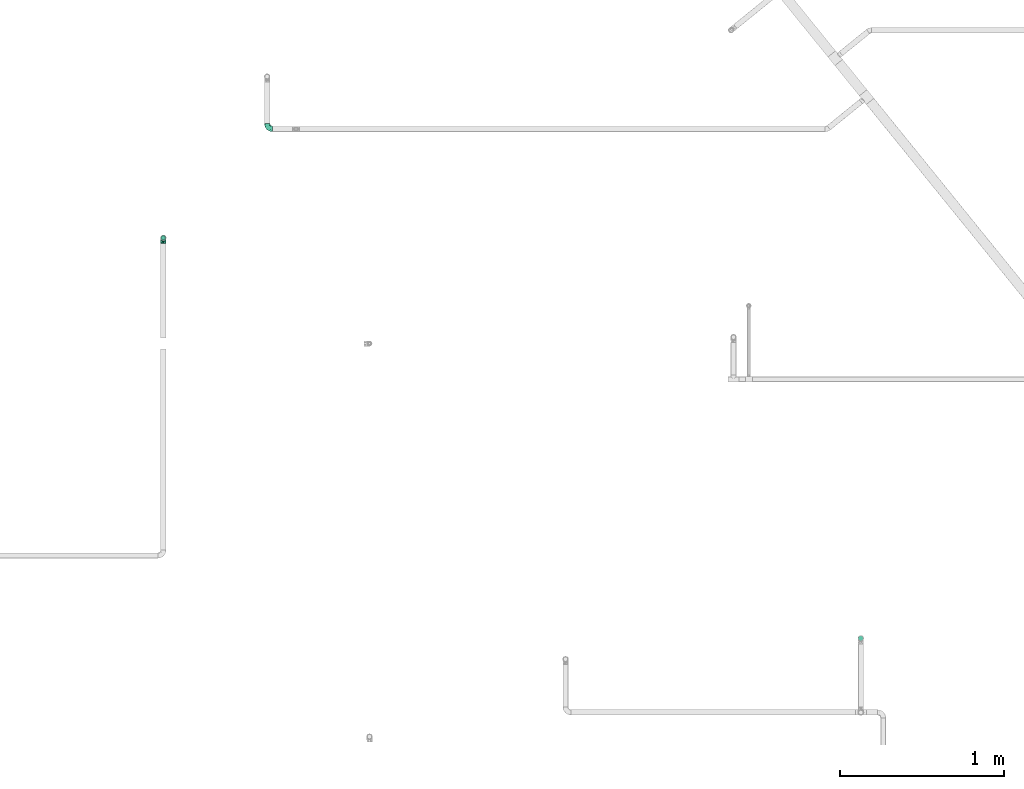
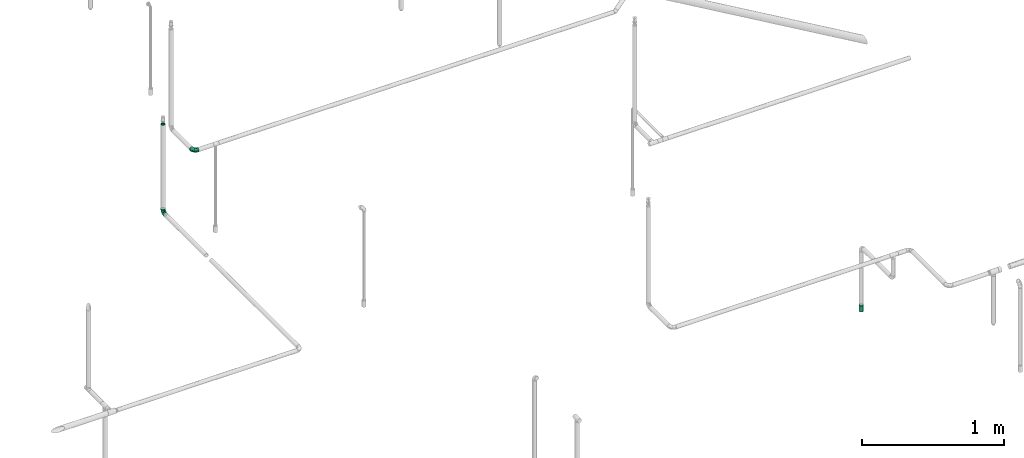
# One storey, part 61 of 94: 3 flow fittings, 1 flow terminal.
"""IFC2X3 building model written with IfcOpenShell, lengths in millimetres."""

from ifc_helpers import new_model, entity, si_unit, converted_unit, derived_unit, direction, frame, origin_with_axes, place, context, subcontext, project, spatial, open_shell, surface_model, source, transform, mapped, type_object, element, save


model = new_model("IFC2X3")

# Units and contexts
model_context = context("Model", 3, precision=0.01, world=frame((0.0, 4.29681676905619e-09, 0.0)), true_north=direction((4.01073788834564e-13, 1.0)))
plan_context = context("Plan", 3, precision=0.01, world=frame((0.0, 4.29681676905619e-09, 0.0)), true_north=direction((4.01073788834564e-13, 1.0)))
body_context = subcontext(model_context, "Body", "Model", "MODEL_VIEW")
ifc_project = project(units=[converted_unit("PLANEANGLEUNIT", "DEGREE", entity("IfcPositiveLengthMeasure", 0.0174532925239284), si_unit("PLANEANGLEUNIT", "RADIAN"), dimensions=[0, 0, 0, 0, 0, 0, 0]), si_unit("AREAUNIT", "SQUARE_METRE"), si_unit("LENGTHUNIT", "METRE", prefix="MILLI"), si_unit("MASSUNIT", "GRAM", prefix="KILO"), si_unit("POWERUNIT", "WATT"), si_unit("PRESSUREUNIT", "PASCAL", prefix="KILO"), si_unit("FORCEUNIT", "NEWTON", prefix="KILO"), si_unit("ELECTRICVOLTAGEUNIT", "VOLT"), si_unit("ELECTRICCURRENTUNIT", "AMPERE"), si_unit("THERMODYNAMICTEMPERATUREUNIT", "DEGREE_CELSIUS"), si_unit("TIMEUNIT", "SECOND"), si_unit("VOLUMEUNIT", "CUBIC_METRE"), derived_unit("LINEARVELOCITYUNIT", [(si_unit("LENGTHUNIT", "METRE"), 1), (si_unit("TIMEUNIT", "SECOND"), -1)]), derived_unit("VOLUMETRICFLOWRATEUNIT", [(si_unit("VOLUMEUNIT", "CUBIC_METRE"), 1), (si_unit("TIMEUNIT", "SECOND"), -1)]), derived_unit("THERMALTRANSMITTANCEUNIT", [(si_unit("POWERUNIT", "WATT"), 1), (si_unit("THERMODYNAMICTEMPERATUREUNIT", "KELVIN"), -1), (si_unit("AREAUNIT", "SQUARE_METRE"), -1)]), derived_unit("SOUNDPRESSUREUNIT", [(si_unit("PRESSUREUNIT", "PASCAL"), 1)])], contexts=[model_context, plan_context])

# Site, building, storey
site_placement = place(None, frame((0.0, -4.29681676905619e-09, 0.0), z_axis=(0.0, 0.0, 1.0), x_axis=(1.0, 0.0, 0.0)))
site = spatial("IfcSite", under=ifc_project, at=site_placement, CompositionType="ELEMENT")
building_placement = place(site_placement, frame((0.0, 4.29681676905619e-09, 0.0), z_axis=(0.0, 0.0, 1.0), x_axis=(1.0, 0.0, 0.0)))
building = spatial("IfcBuilding", under=site, at=building_placement, Name="mc-building", CompositionType="ELEMENT")
storey_placement = place(building_placement, frame((0.0, 0.0, 210900.0), z_axis=(0.0, 0.0, 1.0), x_axis=(1.0, 0.0, 0.0)))
storey = spatial("IfcBuildingStorey", under=building, at=storey_placement, Name="Nivå F", CompositionType="ELEMENT", Elevation=210900.0)

# Flow fittings
pipe_fitting_type_1 = type_object("IfcPipeFittingType", Name="magi_pipe_fe_reducer_centric_short_NOR", PredefinedType="TRANSITION")
shared_shape_1 = source(origin_with_axes(), body_context, "Body", "SurfaceModel", [
    surface_model("IfcShellBasedSurfaceModel", [(14.4, 5.35, -9.26647), (14.4, 0.0, -10.7), (14.4, 2.76936, -10.33541), (14.4, 10.33541, -2.76936), (14.4, 7.56604, -7.56604), (14.4, -10.33541, -2.76936), (14.4, 9.26647, -5.35), (14.4, 0.0, 10.7), (14.4, -5.35, -9.26647), (14.4, -2.76936, -10.33541), (14.4, -7.56604, -7.56604), (14.4, -9.26647, -5.35), (14.4, 10.7, 0.0), (14.4, 10.33541, 2.76936), (14.4, 9.26647, 5.35), (14.4, 7.56604, 7.56604), (14.4, 2.76936, 10.33541), (14.4, 5.35, 9.26647), (14.4, -10.33541, 2.76936), (14.4, -7.56604, 7.56604), (14.4, -9.26647, 5.35), (14.4, -10.7, 0.0), (14.4, -2.76936, 10.33541), (14.4, -5.35, 9.26647), (12.4, 2.76936, 10.33541), (12.4, -10.33541, -2.76936), (12.4, 0.0, 10.7), (12.4, 5.35, 9.26647), (12.4, 7.56604, 7.56604), (12.4, 9.26647, 5.35), (12.4, 10.33541, 2.76936), (12.4, -10.33541, 2.76936), (12.4, -2.76936, 10.33541), (12.4, -7.56604, 7.56604), (12.4, -5.35, 9.26647), (12.4, -9.26647, 5.35), (12.4, -10.7, 0.0), (12.4, 10.33541, -2.76936), (12.4, 5.35, -9.26647), (12.4, 9.26647, -5.35), (12.4, 7.56604, -7.56604), (12.4, 2.76936, -10.33541), (12.4, -9.26647, -5.35), (12.4, -5.35, -9.26647), (12.4, -7.56604, -7.56604), (12.4, 0.0, -10.7), (12.4, -2.76936, -10.33541), (12.4, 10.7, 0.0), (-2.0, 11.9501, 11.9501), (-2.0, 0.0, 16.9), (-2.0, 4.37404, 16.32415), (-2.0, 8.45, 14.63583), (-2.0, 14.63583, 8.45), (-2.0, 16.32415, 4.37404), (-2.0, -16.32415, 4.37404), (-2.0, -8.45, 14.63583), (-2.0, -14.63583, 8.45), (-2.0, -11.9501, 11.9501), (-2.0, -4.37404, 16.32415), (-2.0, -16.32415, -4.37404), (-2.0, -16.9, 0.0), (-2.0, -8.45, -14.63583), (-2.0, 16.32415, -4.37404), (-2.0, 11.9501, -11.9501), (-2.0, 14.63583, -8.45), (-2.0, 8.45, -14.63583), (-2.0, 4.37404, -16.32415), (-2.0, 0.0, -16.9), (-2.0, -11.9501, -11.9501), (-2.0, -14.63583, -8.45), (-2.0, -4.37404, -16.32415), (-2.0, 16.9, 0.0), (0.0, 4.37404, -16.32415), (0.0, 8.45, -14.63583), (0.0, 11.9501, -11.9501), (0.0, 0.0, -16.9), (0.0, 16.32415, -4.37404), (0.0, 16.32415, 4.37404), (0.0, 14.63583, -8.45), (0.0, -8.45, -14.63583), (0.0, -4.37404, -16.32415), (0.0, -11.9501, -11.9501), (0.0, -16.32415, -4.37404), (0.0, -14.63583, -8.45), (0.0, -16.32415, 4.37404), (0.0, 16.9, 0.0), (0.0, 14.63583, 8.45), (0.0, 11.9501, 11.9501), (0.0, 4.37404, 16.32415), (0.0, 8.45, 14.63583), (0.0, 0.0, 16.9), (0.0, -14.63583, 8.45), (0.0, -16.9, 0.0), (0.0, -8.45, 14.63583), (0.0, -11.9501, 11.9501), (0.0, -4.37404, 16.32415), (12.4, 9.3625, -2.31662), (0.0, 14.42505, -5.97505), (0.0, 15.66253, -2.98753), (12.4, -6.6875, -6.94985), (0.0, -13.18758, -8.96258), (0.0, 2.98753, -15.66253), (12.4, 0.0, -9.26647), (12.4, 6.6875, -6.94985), (0.0, 8.96258, -13.18758), (12.4, -9.3625, -2.31662), (0.0, -15.66253, -2.98753), (0.0, -14.42505, -5.97505), (0.0, 5.97505, -14.42505), (0.0, -2.98753, -15.66253), (0.0, -8.96258, -13.18758), (0.0, 13.18758, -8.96258), (12.4, 8.025, -4.63324), (12.4, -2.675, -9.26647), (12.4, 2.675, -9.26647), (0.0, -5.97505, -14.42505), (12.4, -8.025, -4.63324), (12.4, -9.3625, 2.31662), (0.0, -14.42505, 5.97505), (0.0, -15.66253, 2.98753), (12.4, 6.6875, 6.94985), (0.0, 13.18758, 8.96258), (0.0, -2.98753, 15.66253), (12.4, 0.0, 9.26647), (12.4, -6.6875, 6.94985), (0.0, -8.96258, 13.18758), (12.4, 9.3625, 2.31662), (0.0, 15.66253, 2.98753), (0.0, 14.42505, 5.97505), (0.0, -5.97505, 14.42505), (0.0, 2.98753, 15.66253), (0.0, 8.96258, 13.18758), (0.0, -13.18758, 8.96258), (12.4, -8.025, 4.63324), (12.4, 2.675, 9.26647), (12.4, -2.675, 9.26647), (0.0, 5.97505, 14.42505), (12.4, 8.025, 4.63324)], [open_shell([[[0, 1, 2]], [[3, 0, 4]], [[5, 0, 3]], [[3, 4, 6]], [[7, 5, 3]], [[1, 8, 9]], [[1, 0, 8]], [[10, 5, 11]], [[5, 10, 8]], [[0, 5, 8]], [[3, 12, 13]], [[13, 14, 15]], [[13, 15, 16]], [[7, 3, 16]], [[16, 15, 17]], [[7, 18, 5]], [[18, 19, 20]], [[21, 5, 18]], [[19, 22, 23]], [[22, 19, 18]], [[7, 22, 18]], [[13, 16, 3]], [[24, 25, 26]], [[27, 25, 24]], [[28, 29, 30]], [[28, 25, 27]], [[31, 26, 25]], [[32, 33, 34]], [[33, 32, 31]], [[33, 31, 35]], [[32, 26, 31]], [[31, 25, 36]], [[30, 37, 28]], [[25, 28, 37]], [[38, 37, 39]], [[37, 38, 25]], [[38, 39, 40]], [[41, 25, 38]], [[42, 43, 44]], [[43, 42, 25]], [[43, 45, 46]], [[43, 25, 41]], [[41, 45, 43]], [[37, 30, 47]], [[25, 5, 36]], [[42, 11, 25]], [[8, 44, 43]], [[42, 44, 10]], [[9, 43, 46]], [[25, 11, 5]], [[5, 21, 36]], [[9, 8, 43]], [[10, 44, 8]], [[10, 11, 42]], [[1, 9, 46]], [[46, 45, 1]], [[41, 2, 45]], [[38, 0, 41]], [[6, 40, 39]], [[38, 40, 4]], [[3, 39, 37]], [[38, 4, 0]], [[0, 2, 41]], [[12, 3, 37]], [[6, 39, 3]], [[6, 4, 40]], [[47, 12, 37]], [[45, 2, 1]], [[30, 13, 47]], [[29, 14, 30]], [[17, 28, 27]], [[29, 28, 15]], [[16, 27, 24]], [[30, 14, 13]], [[13, 12, 47]], [[16, 17, 27]], [[15, 28, 17]], [[15, 14, 29]], [[7, 16, 24]], [[24, 26, 7]], [[32, 22, 26]], [[34, 23, 32]], [[20, 33, 35]], [[34, 33, 19]], [[18, 35, 31]], [[34, 19, 23]], [[23, 22, 32]], [[21, 18, 31]], [[20, 35, 18]], [[20, 19, 33]], [[36, 21, 31]], [[26, 22, 7]], [[48, 49, 50]], [[48, 50, 51]], [[48, 52, 53]], [[48, 53, 49]], [[49, 53, 54]], [[55, 56, 57]], [[55, 58, 49]], [[56, 55, 49]], [[49, 54, 56]], [[54, 59, 60]], [[54, 53, 61]], [[53, 62, 63]], [[63, 62, 64]], [[63, 65, 66]], [[61, 53, 63]], [[67, 63, 66]], [[59, 68, 69]], [[68, 59, 61]], [[61, 67, 70]], [[59, 54, 61]], [[63, 67, 61]], [[53, 71, 62]], [[72, 73, 74]], [[75, 72, 74]], [[74, 76, 77]], [[76, 74, 78]], [[74, 77, 79]], [[75, 79, 80]], [[75, 74, 79]], [[81, 82, 83]], [[82, 81, 79]], [[79, 84, 82]], [[77, 76, 85]], [[77, 86, 87]], [[77, 87, 88]], [[88, 84, 79]], [[88, 87, 89]], [[84, 88, 90]], [[90, 91, 84]], [[92, 82, 84]], [[91, 93, 94]], [[91, 90, 93]], [[93, 90, 95]], [[79, 77, 88]], [[59, 82, 60]], [[69, 83, 59]], [[79, 68, 61]], [[69, 68, 81]], [[80, 61, 70]], [[59, 83, 82]], [[82, 92, 60]], [[80, 79, 61]], [[81, 68, 79]], [[81, 83, 69]], [[75, 80, 70]], [[70, 67, 75]], [[66, 72, 67]], [[65, 73, 66]], [[78, 63, 64]], [[65, 63, 74]], [[76, 64, 62]], [[65, 74, 73]], [[73, 72, 66]], [[85, 76, 62]], [[78, 64, 76]], [[78, 74, 63]], [[71, 85, 62]], [[67, 72, 75]], [[53, 77, 71]], [[52, 86, 53]], [[89, 48, 51]], [[52, 48, 87]], [[88, 51, 50]], [[53, 86, 77]], [[77, 85, 71]], [[88, 89, 51]], [[87, 48, 89]], [[87, 86, 52]], [[90, 88, 50]], [[50, 49, 90]], [[58, 95, 49]], [[55, 93, 58]], [[91, 57, 56]], [[55, 57, 94]], [[84, 56, 54]], [[55, 94, 93]], [[93, 95, 58]], [[92, 84, 54]], [[91, 56, 84]], [[91, 94, 57]], [[60, 92, 54]], [[49, 95, 90]], [[27, 34, 47]], [[47, 34, 43]], [[43, 38, 47]], [[43, 34, 36]], [[90, 87, 94]], [[92, 94, 87]], [[87, 74, 92]], [[75, 92, 74]], [[81, 92, 75]], [[74, 87, 85]], [[96, 97, 98]], [[81, 99, 100]], [[101, 102, 75]], [[98, 85, 47]], [[74, 103, 104]], [[104, 103, 38]], [[105, 106, 107]], [[38, 108, 104]], [[102, 109, 75]], [[110, 99, 81]], [[47, 96, 98]], [[103, 111, 112]], [[109, 102, 113]], [[36, 92, 106]], [[102, 101, 114]], [[110, 115, 43]], [[96, 112, 97]], [[107, 116, 105]], [[36, 106, 105]], [[113, 115, 109]], [[43, 115, 113]], [[116, 107, 100]], [[108, 38, 114]], [[111, 103, 74]], [[111, 97, 112]], [[99, 110, 43]], [[116, 100, 99]], [[101, 108, 114]], [[117, 118, 119]], [[87, 120, 121]], [[122, 123, 90]], [[119, 92, 36]], [[94, 124, 125]], [[125, 124, 34]], [[126, 127, 128]], [[34, 129, 125]], [[123, 130, 90]], [[131, 120, 87]], [[36, 117, 119]], [[124, 132, 133]], [[130, 123, 134]], [[47, 85, 127]], [[123, 122, 135]], [[131, 136, 27]], [[117, 133, 118]], [[128, 137, 126]], [[47, 127, 126]], [[134, 136, 130]], [[27, 136, 134]], [[137, 128, 121]], [[129, 34, 135]], [[132, 124, 94]], [[132, 118, 133]], [[120, 131, 27]], [[137, 121, 120]], [[122, 129, 135]]])]),
])
flow_fitting_placement = place(storey_placement, frame((723741.0277, 439846.03424, 4357.64799999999), z_axis=(-1.0, 0.0, 0.0), x_axis=(0.0, 0.0, 1.0)))
element("IfcFlowFitting", 1, at=flow_fitting_placement, inside=storey, type_object=pipe_fitting_type_1, Name="magi_pipe_fe_reducer_centric_short_NOR", context=body_context, shape_type="MappedRepresentation", body=[
    mapped(shared_shape_1, transform((0.0, 0.0, 0.0), scale=1.0)),
])
pipe_fitting_type_2 = type_object("IfcPipeFittingType", Name="magi_pipe_fe_elbow_short_001", PredefinedType="BEND")
shared_shape_2 = source(origin_with_axes(), body_context, "Body", "SurfaceModel", [
    surface_model("IfcShellBasedSurfaceModel", [(-33.8, 8.45, -14.63583), (-33.8, 4.37404, -16.32415), (-33.8, 11.9501, -11.9501), (-33.8, -11.9501, -11.9501), (-33.8, -14.63583, -8.45), (-33.8, -8.45, -14.63583), (-33.8, 0.0, -16.9), (-33.8, -4.37404, -16.32415), (-33.8, -4.37404, 16.32415), (-33.8, 0.0, 16.9), (-33.8, -8.45, 14.63583), (-33.8, 16.32415, -4.37404), (-33.8, 14.63583, -8.45), (-33.8, -16.32415, -4.37404), (-33.8, -16.9, 0.0), (-33.8, -16.32415, 4.37404), (-33.8, 11.9501, 11.9501), (-33.8, 14.63583, 8.45), (-33.8, 16.32415, 4.37404), (-33.8, 4.37404, 16.32415), (-33.8, 8.45, 14.63583), (-33.8, -14.63583, 8.45), (-33.8, -11.9501, 11.9501), (-33.8, 16.9, 0.0), (-11.9501, 33.8, -11.9501), (0.0, 33.8, -16.9), (-4.37404, 33.8, -16.32415), (-8.45, 33.8, -14.63583), (-14.63583, 33.8, -8.45), (-16.32415, 33.8, -4.37404), (14.63583, 33.8, -8.45), (8.45, 33.8, 14.63583), (16.32415, 33.8, -4.37404), (8.45, 33.8, -14.63583), (11.9501, 33.8, -11.9501), (4.37404, 33.8, -16.32415), (16.32415, 33.8, 4.37404), (16.9, 33.8, 0.0), (-11.9501, 33.8, 11.9501), (-16.32415, 33.8, 4.37404), (-14.63583, 33.8, 8.45), (-8.45, 33.8, 14.63583), (-4.37404, 33.8, 16.32415), (11.9501, 33.8, 11.9501), (14.63583, 33.8, 8.45), (0.0, 33.8, 16.9), (4.37404, 33.8, 16.32415), (-16.9, 33.8, 0.0), (-24.79389, -13.12945, 9.48721), (-22.19287, -9.75018, 12.59315), (-24.09897, -14.97035, 0.0), (-14.93934, -10.76256, 8.5297), (-22.46095, -14.75051, 5.27077), (14.75051, 22.46094, 5.27077), (11.9251, 13.23888, 4.33236), (13.04069, 14.39795, 0.0), (7.71387, 13.68847, 11.55891), (9.75018, 22.19287, 12.59315), (4.10169, 13.0571, 14.04018), (-24.84007, -6.39063, 15.2048), (-25.81779, -2.23879, 16.61097), (-23.66549, 2.59054, 16.87119), (-26.50418, 14.06512, 11.08152), (-24.21253, 17.66365, 7.72657), (-29.58514, 15.86957, 7.00283), (-6.17382, -7.5455, 0.0), (-13.23888, -11.9251, 4.33236), (-14.39795, -13.04069, 0.0), (-17.81434, 18.87373, 11.97104), (-6.30846, 29.15138, 15.82987), (-2.31622, 25.28002, 16.85849), (-29.23923, 10.23435, 13.77053), (-1.45439, -2.85688, 7.61475), (-0.28326, 0.34872, 10.09509), (-5.74484, -4.04709, 10.4122), (-4.41137, 11.31918, 16.59407), (-8.39727, 3.10034, 15.7812), (-1.72649, 9.1306, 15.53089), (-17.39909, 24.75344, 7.64977), (-26.19233, 20.0512, 0.0), (-28.14518, 17.29657, 4.25857), (-26.05147, 6.6281, 15.96447), (-5.87354, 16.61944, 16.86968), (-12.51807, 12.51807, 16.48937), (-10.06312, 7.38516, 16.81295), (-3.01882, 3.01882, 13.81718), (-13.0571, -4.10169, 14.04018), (-16.82553, -0.15166, 16.38038), (10.76256, 14.93934, 8.5297), (13.12945, 24.79389, 9.48721), (6.39063, 24.84007, 15.2048), (2.23879, 25.81779, 16.61097), (-13.68847, -7.71387, 11.55891), (14.97035, 24.09897, 0.0), (-7.30894, 22.89991, 16.09489), (-10.67958, 26.17414, 14.008), (-12.78295, 18.26924, 15.06066), (-13.88562, 22.45231, 12.93244), (-18.04944, 15.16501, 14.04434), (-23.11658, 20.08178, 4.02986), (-21.84989, 21.84989, 0.0), (-18.55817, 25.48277, 3.93065), (-13.95142, 26.94732, 11.03289), (-18.57098, 7.23906, 16.59756), (-16.58335, 4.14122, 16.89279), (-17.96666, 11.46709, 15.63151), (-9.84453, 17.54304, 16.18938), (0.15166, 16.82553, 16.38038), (-23.27207, 11.47201, 14.23154), (3.84842, 5.86994, 10.70473), (-8.0212, -7.54413, 7.93275), (1.00345, -2.19508, 4.57414), (5.13203, 3.01004, 5.90201), (5.24161, 1.7543, 2.53265), (8.70457, 7.04947, 3.99182), (-20.0512, 26.19233, 0.0), (8.4852, 8.76699, 7.09296), (-4.55488, -6.72064, 4.90681), (2.05031, -2.05031, 0.0), (7.5455, 6.17382, 0.0), (-26.75399, 2.1369, -16.845), (-14.61995, 24.73803, -11.27736), (-28.45274, -13.45335, -9.81895), (-26.00469, 6.63555, -15.96645), (-23.06726, 20.04573, -4.26202), (-13.80647, -4.26506, -14.17873), (-14.67501, -0.21081, -16.07388), (-6.7902, -0.2828, -13.8478), (-24.53586, 11.08096, -14.13417), (-26.72048, 14.00837, -11.05776), (10.0967, 24.44989, -12.75976), (5.83237, 21.40218, -15.03047), (6.66249, 28.54238, -15.38093), (-20.38182, 15.48705, -12.74596), (12.53268, 21.23441, -9.15363), (12.54494, 15.67504, -5.54878), (9.7522, 12.89279, -8.66343), (-15.65186, 19.64213, -13.01327), (-12.03528, 20.66498, -14.67665), (-15.61907, 15.61906, -14.83879), (-25.56551, -15.26206, 0.0), (-24.65452, -15.12934, -5.50955), (13.45335, 28.45274, -9.81895), (15.12934, 24.65452, -5.50955), (-7.35442, -8.31014, -5.65563), (-15.67504, -12.54494, -5.54878), (-24.44989, -10.0967, -12.75976), (0.16522, 0.41303, -9.71728), (-5.70658, -5.33066, -8.89288), (-5.13869, -2.37198, -11.53565), (-21.23441, -12.53268, -9.15363), (0.71146, 7.93863, -14.09382), (0.21081, 14.67501, -16.07388), (3.49291, 14.42772, -14.76381), (-24.89911, -2.13088, -16.591), (-28.54238, -6.66249, -15.38093), (-18.44386, -7.71663, -13.26957), (2.13088, 24.89911, -16.591), (-28.64342, 17.44413, -2.89318), (1.70017, -1.28722, -5.09504), (-16.57067, 26.81947, -7.36596), (-17.69055, 27.4263, -3.76405), (-12.89279, -9.7522, -8.66343), (-5.96611, 5.96611, -15.95814), (-20.53709, 20.09345, -8.28985), (-2.1369, 26.75399, -16.845), (-6.89872, 24.58781, -16.02578), (-10.60739, 26.53157, -13.98044), (-21.40218, -5.83237, -15.03047), (2.93192, 5.89627, -11.55917), (6.89393, 12.61842, -11.82233), (5.58056, 5.95325, -8.79455), (-3.99512, 18.61798, -16.89635), (8.31014, 7.35442, -5.65563), (-9.1383, 9.86148, -16.89041), (-9.99983, 16.02119, -16.39699), (-16.68576, 9.78031, -16.34199), (-27.01915, 16.61158, -7.12979), (15.26206, 25.56551, 0.0), (-18.61798, 3.99512, -16.89635), (-19.37495, 27.82495, 0.0), (-12.61842, -6.89393, -11.82233), (-18.84705, 19.14018, -10.96545)], [open_shell([[[0, 1, 2]], [[3, 4, 5]], [[6, 7, 5]], [[8, 9, 10]], [[1, 6, 2]], [[11, 12, 2]], [[4, 2, 6]], [[2, 13, 10]], [[5, 4, 6]], [[2, 4, 13]], [[14, 15, 13]], [[11, 2, 16]], [[11, 17, 18]], [[11, 16, 17]], [[19, 20, 16]], [[16, 2, 10]], [[19, 16, 10]], [[21, 22, 15]], [[22, 13, 15]], [[22, 10, 13]], [[10, 9, 19]], [[11, 18, 23]], [[24, 25, 26]], [[24, 26, 27]], [[24, 28, 29]], [[25, 24, 30]], [[31, 32, 24]], [[33, 30, 34]], [[33, 35, 25]], [[25, 30, 33]], [[32, 30, 24]], [[32, 36, 37]], [[38, 24, 29]], [[39, 40, 29]], [[40, 38, 29]], [[38, 41, 42]], [[38, 31, 24]], [[31, 38, 42]], [[36, 43, 44]], [[36, 32, 43]], [[31, 45, 46]], [[32, 31, 43]], [[42, 45, 31]], [[39, 29, 47]], [[22, 48, 49]], [[15, 14, 50]], [[51, 48, 52]], [[53, 54, 55]], [[48, 22, 21]], [[15, 52, 21]], [[56, 57, 58]], [[49, 10, 22]], [[49, 59, 10]], [[9, 60, 61]], [[62, 63, 64]], [[65, 66, 67]], [[57, 43, 31]], [[62, 68, 63]], [[42, 69, 70]], [[20, 71, 16]], [[8, 60, 9]], [[72, 73, 74]], [[75, 76, 77]], [[16, 62, 17]], [[40, 39, 78]], [[79, 23, 80]], [[64, 18, 17]], [[9, 61, 19]], [[19, 81, 20]], [[82, 83, 84]], [[74, 85, 86]], [[59, 86, 87]], [[88, 89, 57]], [[90, 31, 46]], [[44, 53, 36]], [[46, 45, 91]], [[54, 53, 88]], [[44, 89, 53]], [[92, 86, 49]], [[89, 44, 43]], [[10, 59, 8]], [[53, 55, 93]], [[93, 36, 53]], [[66, 52, 67]], [[94, 82, 70]], [[95, 96, 94]], [[97, 98, 96]], [[79, 99, 100]], [[41, 38, 95]], [[101, 100, 99]], [[68, 78, 63]], [[42, 41, 69]], [[23, 18, 80]], [[95, 94, 69]], [[78, 101, 99]], [[38, 102, 95]], [[70, 45, 42]], [[97, 95, 102]], [[15, 50, 52]], [[90, 57, 31]], [[57, 90, 58]], [[81, 19, 61]], [[103, 104, 84]], [[105, 81, 103]], [[38, 40, 102]], [[106, 96, 83]], [[94, 106, 82]], [[91, 70, 107]], [[71, 62, 16]], [[62, 108, 98]], [[86, 59, 49]], [[67, 52, 50]], [[60, 59, 87]], [[92, 49, 51]], [[86, 85, 76]], [[91, 90, 46]], [[37, 36, 93]], [[107, 77, 58]], [[107, 58, 90]], [[58, 85, 109]], [[110, 74, 92]], [[72, 74, 110]], [[66, 51, 52]], [[72, 111, 112]], [[113, 114, 112]], [[56, 88, 57]], [[52, 48, 21]], [[49, 48, 51]], [[57, 89, 43]], [[53, 89, 88]], [[103, 81, 61]], [[71, 81, 108]], [[18, 64, 80]], [[63, 78, 99]], [[47, 115, 101]], [[101, 115, 100]], [[40, 78, 102]], [[68, 102, 78]], [[97, 96, 95]], [[105, 98, 108]], [[103, 84, 83]], [[107, 70, 82]], [[76, 84, 87]], [[82, 84, 75]], [[70, 91, 45]], [[90, 91, 107]], [[59, 60, 8]], [[61, 60, 87]], [[73, 85, 74]], [[109, 112, 116]], [[103, 61, 104]], [[105, 103, 83]], [[96, 105, 83]], [[81, 105, 108]], [[96, 98, 105]], [[62, 98, 68]], [[61, 87, 104]], [[87, 84, 104]], [[86, 76, 87]], [[77, 76, 85]], [[58, 77, 85]], [[75, 77, 107]], [[82, 75, 107]], [[76, 75, 84]], [[81, 71, 20]], [[62, 71, 108]], [[95, 69, 41]], [[70, 69, 94]], [[62, 64, 17]], [[80, 63, 99]], [[63, 80, 64]], [[80, 99, 79]], [[66, 65, 117]], [[110, 66, 117]], [[112, 114, 116]], [[118, 117, 65]], [[110, 92, 51]], [[112, 111, 113]], [[119, 55, 54]], [[74, 86, 92]], [[58, 109, 56]], [[116, 56, 109]], [[66, 110, 51]], [[72, 110, 117]], [[111, 72, 117]], [[73, 112, 109]], [[117, 118, 111]], [[113, 111, 118]], [[118, 119, 113]], [[114, 119, 54]], [[119, 114, 113]], [[116, 54, 88]], [[54, 116, 114]], [[116, 88, 56]], [[112, 73, 72]], [[85, 73, 109]], [[78, 39, 101]], [[47, 101, 39]], [[102, 68, 97]], [[97, 68, 98]], [[82, 106, 83]], [[94, 96, 106]], [[1, 120, 6]], [[28, 24, 121]], [[3, 122, 4]], [[0, 123, 1]], [[100, 124, 79]], [[125, 126, 127]], [[128, 2, 129]], [[130, 131, 132]], [[128, 129, 133]], [[134, 135, 136]], [[137, 138, 139]], [[128, 0, 2]], [[67, 140, 141]], [[134, 142, 143]], [[141, 13, 4]], [[144, 65, 145]], [[146, 3, 5]], [[147, 148, 149]], [[145, 141, 150]], [[151, 152, 153]], [[154, 7, 6]], [[5, 155, 146]], [[150, 146, 156]], [[155, 5, 7]], [[143, 135, 134]], [[35, 157, 25]], [[23, 79, 158]], [[148, 159, 144]], [[160, 161, 29]], [[145, 162, 144]], [[163, 152, 151]], [[29, 28, 160]], [[121, 164, 160]], [[33, 34, 130]], [[25, 165, 26]], [[26, 165, 166]], [[142, 34, 30]], [[24, 27, 167]], [[124, 161, 164]], [[157, 35, 132]], [[155, 154, 168]], [[123, 0, 128]], [[169, 170, 171]], [[172, 157, 152]], [[26, 166, 27]], [[132, 35, 33]], [[142, 130, 34]], [[168, 154, 126]], [[136, 135, 173]], [[133, 137, 139]], [[2, 12, 129]], [[170, 131, 130]], [[30, 32, 143]], [[172, 174, 175]], [[176, 123, 128]], [[158, 177, 11]], [[135, 55, 119]], [[167, 27, 166]], [[175, 166, 172]], [[137, 167, 138]], [[122, 141, 4]], [[140, 14, 13]], [[32, 37, 178]], [[170, 130, 134]], [[152, 157, 131]], [[165, 157, 172]], [[153, 170, 151]], [[152, 163, 174]], [[168, 125, 156]], [[122, 146, 150]], [[120, 154, 6]], [[179, 174, 126]], [[179, 126, 154]], [[126, 163, 127]], [[162, 145, 150]], [[140, 13, 141]], [[32, 178, 143]], [[55, 143, 178]], [[177, 129, 12]], [[128, 133, 139]], [[176, 128, 139]], [[120, 123, 179]], [[121, 160, 28]], [[161, 100, 180]], [[166, 175, 138]], [[121, 24, 167]], [[161, 47, 29]], [[79, 124, 158]], [[124, 164, 177]], [[161, 124, 100]], [[136, 171, 170]], [[127, 163, 151]], [[147, 171, 159]], [[148, 144, 162]], [[127, 151, 169]], [[127, 181, 125]], [[129, 177, 164]], [[12, 11, 177]], [[159, 65, 144]], [[67, 141, 145]], [[143, 55, 135]], [[135, 119, 173]], [[123, 120, 1]], [[154, 120, 179]], [[157, 165, 25]], [[166, 165, 172]], [[172, 152, 174]], [[176, 139, 175]], [[126, 174, 163]], [[176, 174, 179]], [[174, 176, 175]], [[123, 176, 179]], [[150, 181, 162]], [[127, 149, 181]], [[181, 148, 162]], [[159, 148, 147]], [[171, 136, 173]], [[170, 134, 136]], [[159, 171, 173]], [[171, 147, 169]], [[169, 147, 149]], [[151, 170, 169]], [[164, 182, 129]], [[182, 121, 137]], [[181, 149, 148]], [[169, 149, 127]], [[182, 137, 133]], [[167, 137, 121]], [[166, 138, 167]], [[175, 139, 138]], [[129, 182, 133]], [[121, 182, 164]], [[161, 160, 164]], [[47, 161, 180]], [[177, 158, 124]], [[23, 158, 11]], [[130, 132, 33]], [[157, 132, 131]], [[143, 142, 30]], [[130, 142, 134]], [[154, 155, 7]], [[146, 155, 168]], [[146, 122, 3]], [[141, 122, 150]], [[152, 131, 153]], [[159, 119, 118]], [[67, 145, 65]], [[170, 153, 131]], [[119, 159, 173]], [[159, 118, 65]], [[156, 125, 181]], [[126, 125, 168]], [[150, 156, 181]], [[168, 156, 146]]])]),
])
for number, where, z_axis, x_axis, name in (
    (2, (724374.5926, 440510.4939, 3500.0), (0.0, 0.0, 1.0), (0.0, -1.0, 0.0), "magi_pipe_fe_elbow_short_001"),
    (3, (723741.0277, 439846.03424, 3600.0), (1.0, 0.0, 0.0), (0.0, 1.0, 0.0), "magi_pipe_fe_elbow_short_001"),
):
    element("IfcFlowFitting", number, at=place(storey_placement, frame(where, z_axis=z_axis, x_axis=x_axis)), inside=storey, type_object=pipe_fitting_type_2, Name=name, context=body_context, shape_type="MappedRepresentation", body=[
        mapped(shared_shape_2, transform((0.0, 0.0, 0.0), scale=1.0)),
    ])

# Flow terminal
fire_suppression_terminal_type = type_object("IfcFireSuppressionTerminalType", Name="SP-15-K80-68DGR-STD-HIMLING", PredefinedType="NOTDEFINED")
shared_shape_3 = source(origin_with_axes(), body_context, "Body", "SurfaceModel", [
    surface_model("IfcShellBasedSurfaceModel", [(4.1411, -15.45481, 53.0), (8.0, -13.85641, 53.0), (11.31371, -11.31371, 53.0), (-8.0, -13.85641, 53.0), (15.45481, -4.1411, 53.0), (16.0, 0.0, 53.0), (13.85641, -8.0, 53.0), (0.0, -16.0, 53.0), (-4.1411, -15.45481, 53.0), (-13.85641, -8.0, 53.0), (-11.31371, -11.31371, 53.0), (-15.45481, -4.1411, 53.0), (15.45481, 4.1411, 53.0), (13.85641, 8.0, 53.0), (11.31371, 11.31371, 53.0), (-4.1411, 15.45481, 53.0), (8.0, 13.85641, 53.0), (4.1411, 15.45481, 53.0), (0.0, 16.0, 53.0), (-13.85641, 8.0, 53.0), (-15.45481, 4.1411, 53.0), (-16.0, 0.0, 53.0), (-11.31371, 11.31371, 53.0), (-8.0, 13.85641, 53.0), (0.0, 16.0, 0.0), (4.1411, 15.45481, 0.0), (8.0, 13.85641, 0.0), (-4.1411, 15.45481, 0.0), (11.31371, 11.31371, 0.0), (13.85641, 8.0, 0.0), (15.45481, 4.1411, 0.0), (-15.45481, -4.1411, 0.0), (-11.31371, 11.31371, 0.0), (-8.0, 13.85641, 0.0), (-13.85641, 8.0, 0.0), (-15.45481, 4.1411, 0.0), (-16.0, 0.0, 0.0), (4.1411, -15.45481, 0.0), (16.0, 0.0, 0.0), (15.45481, -4.1411, 0.0), (13.85641, -8.0, 0.0), (11.31371, -11.31371, 0.0), (8.0, -13.85641, 0.0), (-8.0, -13.85641, 0.0), (-13.85641, -8.0, 0.0), (-11.31371, -11.31371, 0.0), (0.0, -16.0, 0.0), (-4.1411, -15.45481, 0.0)], [open_shell([[[0, 1, 2]], [[3, 0, 2]], [[4, 5, 2]], [[4, 2, 6]], [[3, 2, 5]], [[7, 3, 8]], [[7, 0, 3]], [[3, 9, 10]], [[9, 3, 11]], [[5, 11, 3]], [[5, 12, 11]], [[12, 13, 14]], [[15, 12, 14]], [[16, 17, 18]], [[14, 16, 15]], [[18, 15, 16]], [[11, 19, 20]], [[21, 11, 20]], [[22, 15, 23]], [[15, 22, 19]], [[19, 11, 15]], [[11, 12, 15]], [[24, 25, 26]], [[27, 24, 26]], [[28, 29, 30]], [[27, 26, 28]], [[27, 28, 31]], [[27, 32, 33]], [[32, 27, 34]], [[34, 31, 35]], [[31, 34, 27]], [[35, 31, 36]], [[28, 30, 31]], [[37, 38, 39]], [[37, 39, 40]], [[41, 42, 37]], [[41, 37, 40]], [[38, 37, 43]], [[44, 43, 45]], [[43, 44, 31]], [[43, 46, 47]], [[43, 31, 38]], [[37, 46, 43]], [[38, 31, 30]], [[11, 31, 44]], [[45, 9, 44]], [[3, 43, 47]], [[45, 43, 10]], [[8, 47, 46]], [[31, 21, 36]], [[31, 11, 21]], [[44, 9, 11]], [[45, 10, 9]], [[3, 10, 43]], [[47, 8, 3]], [[46, 7, 8]], [[0, 37, 42]], [[41, 1, 42]], [[6, 40, 39]], [[41, 40, 2]], [[4, 39, 38]], [[37, 0, 7]], [[42, 1, 0]], [[41, 2, 1]], [[40, 6, 2]], [[4, 6, 39]], [[38, 5, 4]], [[37, 7, 46]], [[12, 38, 30]], [[13, 30, 29]], [[16, 26, 25]], [[17, 25, 24]], [[30, 13, 12]], [[12, 5, 38]], [[28, 14, 13]], [[28, 26, 14]], [[14, 26, 16]], [[25, 17, 16]], [[28, 13, 29]], [[24, 18, 17]], [[15, 27, 33]], [[32, 23, 33]], [[19, 34, 35]], [[32, 34, 22]], [[20, 35, 36]], [[27, 15, 18]], [[33, 23, 15]], [[32, 22, 23]], [[34, 19, 22]], [[20, 19, 35]], [[36, 21, 20]], [[27, 18, 24]]])]),
])
flow_terminal_placement = place(storey_placement, frame((728000.0, 437400.7, 2797.53873999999), z_axis=(0.0, 0.0, -1.0), x_axis=(-1.0, 0.0, 0.0)))
element("IfcFlowTerminal", 4, at=flow_terminal_placement, inside=storey, type_object=fire_suppression_terminal_type, Name="SP-15-K80-68DGR-STD-HIMLING", context=body_context, shape_type="MappedRepresentation", body=[
    mapped(shared_shape_3, transform((0.0, 0.0, 0.0), scale=1.0)),
])

save(model, "model.ifc")
